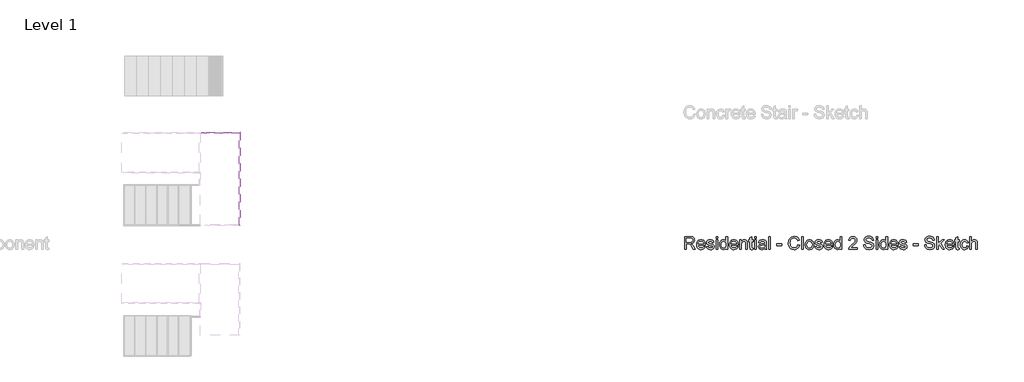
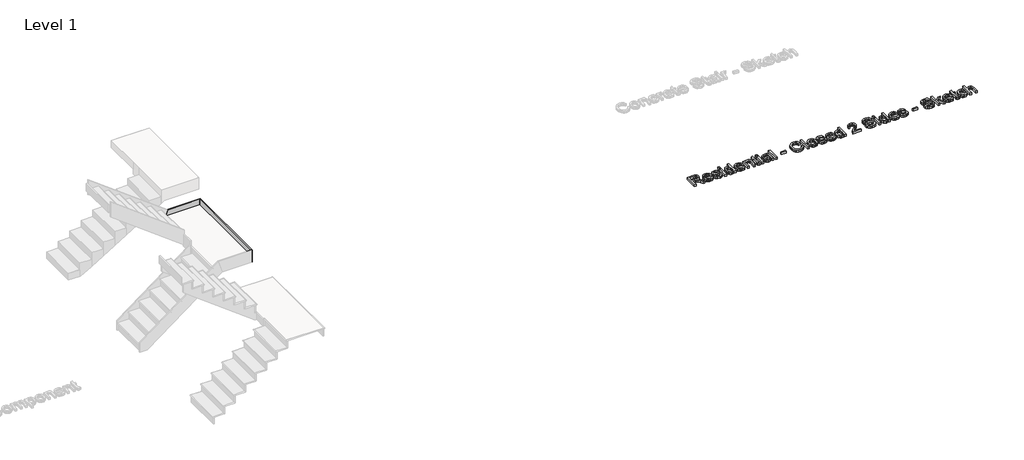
# One storey, part 23 of 26: 2 members, 1 proxy.
"""IFC4 building model written with IfcOpenShell, lengths in millimetres."""

from ifc_helpers import new_model, si_unit, frame, origin, origin_with_axes, place, context, project, spatial, polyline, outline, extrude, faceted_brep, element, save

model = new_model("IFC4")

# Units and contexts
model_context = context("Model", 3, world=origin())
ifc_project = project(units=[si_unit("LENGTHUNIT", "METRE", prefix="MILLI")], contexts=[model_context])

# Site, building, storey
site = spatial("IfcSite", under=ifc_project)
building = spatial("IfcBuilding", under=site)
storey = spatial("IfcBuildingStorey", under=building, Name="Level 1", Elevation=0.0)

# Proxy
placement = place(None, origin())
element("IfcBuildingElementProxy", 1, Name="12\" Arial", ObjectType="12\" Arial", at=placement, inside=storey, context=model_context, shape_type="SweptSolid", body=[
    extrude(outline(polyline([(-4715.4981187, 6428.8767877), (-4715.4981187, 6728.987557), (-4586.1779264, 6728.987557), (-4551.420835, 6726.9634945), (-4526.1337918, 6720.891307), (-4507.6516283, 6709.6811146), (-4493.3091764, 6692.2430377), (-4484.1047293, 6670.619456), (-4481.0365802, 6646.8527493), (-4486.1196331, 6617.2886146), (-4501.3687918, 6592.780057), (-4512.9201439, 6582.7925449), (-4527.2419889, 6574.8107781), (-4564.1971571, 6564.86448), (-4542.875811, 6548.8185185), (-4512.4690802, 6510.2056339), (-4462.4261956, 6428.8767877), (-4506.0213879, 6428.8767877), (-4545.0738879, 6491.0823646), (-4573.2825418, 6532.2596723), (-4593.1018687, 6551.7126531), (-4610.9429264, 6558.8564031), (-4632.7038879, 6560.1752493), (-4677.9842725, 6560.1752493), (-4677.9842725, 6428.8767877), (-4715.4981187, 6428.8767877)]), holes=[polyline([(-4677.9842725, 6597.6890954), (-4594.0177341, 6597.6890954), (-4569.9029985, 6599.0171002), (-4551.1918687, 6603.0011146), (-4537.1058591, 6609.9067396), (-4526.8664841, 6619.9995762), (-4520.6294408, 6632.2080618), (-4518.5504264, 6645.4606339), (-4522.5161235, 6663.7596243), (-4534.4132148, 6678.505057), (-4554.8828062, 6688.2315473), (-4584.5660033, 6691.4737108), (-4677.9842725, 6691.4737108), (-4677.9842725, 6597.6890954)])]), origin_with_axes(), (0.0, 0.0, 1.0), 50.8),
    extrude(outline(polyline([(-4265.7715802, 6494.5260185), (-4228.9904264, 6489.8367877), (-4242.2429985, 6462.1227012), (-4263.3903302, 6441.4058262), (-4291.9561716, 6428.4921243), (-4327.4642725, 6424.187557), (-4350.7409913, 6426.044474), (-4371.4807629, 6431.6152252), (-4389.6835874, 6440.8998106), (-4405.3494648, 6453.89823), (-4417.9471932, 6470.2487168), (-4426.9455706, 6489.5895041), (-4432.344597, 6511.9205918), (-4434.1442725, 6537.24198), (-4432.3262797, 6563.4219921), (-4426.8723014, 6586.4972204), (-4417.7823374, 6606.4676651), (-4405.0563879, 6623.3333262), (-4389.4317244, 6636.7324368), (-4371.6456187, 6646.30323), (-4351.6980706, 6652.045706), (-4329.5890802, 6653.9598646), (-4308.1921752, 6652.0502853), (-4288.8422293, 6646.3215473), (-4271.5392425, 6636.7736507), (-4256.2832148, 6623.4065954), (-4243.8297353, 6606.577569), (-4234.9343927, 6586.6437589), (-4229.5971872, 6563.6051651), (-4227.8181187, 6537.4617877), (-4228.0379264, 6527.3506339), (-4396.6304264, 6527.3506339), (-4390.1369408, 6499.2702012), (-4375.0526379, 6478.6265954), (-4353.2825177, 6465.9327012), (-4326.7315802, 6461.7014031), (-4306.7657148, 6463.661355), (-4289.9504264, 6469.5412108), (-4276.2857148, 6479.7073166), (-4265.7715802, 6494.5260185)]), holes=[polyline([(-4396.6304264, 6564.86448), (-4265.3319648, 6564.86448), (-4270.4058591, 6584.683807), (-4280.3521571, 6598.8614031), (-4302.2230225, 6612.0498646), (-4329.7356187, 6616.4460185), (-4355.0226619, 6612.9382541), (-4375.9318687, 6602.4149608), (-4390.4666523, 6586.0118118), (-4396.6304264, 6564.86448)])]), origin_with_axes(), (0.0, 0.0, 1.0), 50.8),
    extrude(outline(polyline([(-4204.3719648, 6494.5260185), (-4166.8581187, 6499.2152493), (-4160.9416283, 6483.1692877), (-4149.493311, 6471.3729416), (-4132.4398975, 6464.1192877), (-4109.7081187, 6461.7014031), (-4087.2510994, 6463.9177973), (-4071.4615802, 6470.56698), (-4062.1197533, 6480.2018839), (-4059.005811, 6491.3754416), (-4062.1380706, 6500.9370762), (-4071.5348494, 6508.2273646), (-4110.1477341, 6518.9246723), (-4166.638311, 6537.2786146), (-4180.9349696, 6546.5013791), (-4191.2934071, 6558.7098646), (-4197.5854023, 6573.1255858), (-4199.6827341, 6588.970057), (-4197.9975418, 6603.5048406), (-4192.9419648, 6616.9222685), (-4184.973936, 6628.6911387), (-4174.5513879, 6638.2802493), (-4150.7022533, 6649.3805377), (-4118.4271571, 6653.9598646), (-4094.010186, 6652.1189752), (-4072.7804264, 6646.596307), (-4055.7086956, 6637.9322204), (-4043.765811, 6626.6670762), (-4035.8527341, 6611.9674368), (-4030.8704264, 6592.9998646), (-4068.3842725, 6588.3106339), (-4073.1192966, 6600.1161387), (-4082.4885994, 6609.0091916), (-4096.5837677, 6614.5868118), (-4115.4963879, 6616.4460185), (-4137.0375418, 6614.6692396), (-4151.398311, 6609.3389031), (-4159.4762437, 6601.6456339), (-4162.1688879, 6592.780057), (-4157.6994648, 6581.8629416), (-4143.7050418, 6573.5835185), (-4111.393311, 6565.5971723), (-4056.3314841, 6547.9392877), (-4041.7875418, 6539.4950089), (-4030.7605225, 6527.9367877), (-4023.8091043, 6513.2279896), (-4021.4919648, 6495.33198), (-4024.212085, 6476.8314993), (-4032.3724456, 6459.430057), (-4045.6616523, 6444.4922925), (-4063.768311, 6433.3828454), (-4085.6391764, 6426.4863791), (-4110.2210033, 6424.187557), (-4148.0462437, 6428.6203454), (-4175.6504264, 6441.9187108), (-4194.0776379, 6463.9361146), (-4204.3719648, 6494.5260185)])), origin_with_axes(), (0.0, 0.0, 1.0), 50.8),
    extrude(outline(polyline([(-3979.2888879, 6428.8767877), (-3979.2888879, 6649.2706339), (-3941.7750418, 6649.2706339), (-3941.7750418, 6428.8767877), (-3979.2888879, 6428.8767877)])), origin_with_axes(), (0.0, 0.0, 1.0), 50.8),
    extrude(outline(polyline([(-3979.2888879, 6691.4737108), (-3979.2888879, 6728.987557), (-3941.7750418, 6728.987557), (-3941.7750418, 6691.4737108), (-3979.2888879, 6691.4737108)])), origin_with_axes(), (0.0, 0.0, 1.0), 50.8),
    extrude(outline(polyline([(-3749.5165802, 6428.8767877), (-3749.5165802, 6464.2658262), (-3760.7405105, 6446.7315834), (-3774.3365321, 6434.2071243), (-3790.3046451, 6426.6924488), (-3808.6448494, 6424.187557), (-3832.8969648, 6427.8143839), (-3855.0975418, 6438.6948646), (-3873.8910994, 6456.068831), (-3887.9221571, 6479.1761146), (-3896.6595129, 6507.0825329), (-3899.5719648, 6538.8539031), (-3896.8884793, 6570.2314512), (-3888.8380225, 6598.5683262), (-3875.4297533, 6622.252605), (-3856.6728302, 6639.6723646), (-3833.9868446, 6650.3879896), (-3808.7913879, 6653.9598646), (-3790.4374456, 6651.4046002), (-3774.208311, 6643.738807), (-3760.4520129, 6631.9882541), (-3749.5165802, 6617.1787108), (-3749.5165802, 6728.987557), (-3712.0027341, 6728.987557), (-3712.0027341, 6428.8767877), (-3749.5165802, 6428.8767877)]), holes=[polyline([(-3862.0581187, 6539.0004416), (-3857.8268206, 6505.0676291), (-3845.1329264, 6480.9345762), (-3826.6873975, 6466.5096964), (-3805.2011956, 6461.7014031), (-3783.7241523, 6466.2898887), (-3765.7457148, 6480.0553454), (-3753.5738639, 6503.2542156), (-3749.5165802, 6536.1429416), (-3753.6471331, 6572.0998166), (-3766.0387918, 6597.0296723), (-3784.4751619, 6611.591932), (-3806.7398494, 6616.4460185), (-3828.4458591, 6611.7842637), (-3846.2319648, 6597.7989993), (-3858.1015802, 6573.7758502), (-3862.0581187, 6539.0004416)])]), origin_with_axes(), (0.0, 0.0, 1.0), 50.8),
    extrude(outline(polyline([(-3501.4269648, 6494.5260185), (-3464.645811, 6489.8367877), (-3477.8983831, 6462.1227012), (-3499.0457148, 6441.4058262), (-3527.6115562, 6428.4921243), (-3563.1196571, 6424.187557), (-3586.3963759, 6426.044474), (-3607.1361475, 6431.6152252), (-3625.338972, 6440.8998106), (-3641.0048494, 6453.89823), (-3653.6025778, 6470.2487168), (-3662.6009552, 6489.5895041), (-3667.9999817, 6511.9205918), (-3669.7996571, 6537.24198), (-3667.9816643, 6563.4219921), (-3662.527686, 6586.4972204), (-3653.437722, 6606.4676651), (-3640.7117725, 6623.3333262), (-3625.0871091, 6636.7324368), (-3607.3010033, 6646.30323), (-3587.3534552, 6652.045706), (-3565.2444648, 6653.9598646), (-3543.8475598, 6652.0502853), (-3524.4976139, 6646.3215473), (-3507.1946271, 6636.7736507), (-3491.9385994, 6623.4065954), (-3479.4851199, 6606.577569), (-3470.5897773, 6586.6437589), (-3465.2525718, 6563.6051651), (-3463.4735033, 6537.4617877), (-3463.693311, 6527.3506339), (-3632.285811, 6527.3506339), (-3625.7923254, 6499.2702012), (-3610.7080225, 6478.6265954), (-3588.9379023, 6465.9327012), (-3562.3869648, 6461.7014031), (-3542.4210994, 6463.661355), (-3525.605811, 6469.5412108), (-3511.9410994, 6479.7073166), (-3501.4269648, 6494.5260185)]), holes=[polyline([(-3632.285811, 6564.86448), (-3500.9873494, 6564.86448), (-3506.0612437, 6584.683807), (-3516.0075418, 6598.8614031), (-3537.8784071, 6612.0498646), (-3565.3910033, 6616.4460185), (-3590.6780466, 6612.9382541), (-3611.5872533, 6602.4149608), (-3626.1220369, 6586.0118118), (-3632.285811, 6564.86448)])]), origin_with_axes(), (0.0, 0.0, 1.0), 50.8),
    extrude(outline(polyline([(-3425.9596571, 6428.8767877), (-3425.9596571, 6649.2706339), (-3388.445811, 6649.2706339), (-3388.445811, 6618.497557), (-3375.4130466, 6634.0123166), (-3359.7609071, 6645.0942877), (-3341.4893927, 6651.7434704), (-3320.5985033, 6653.9598646), (-3302.1071812, 6652.1739271), (-3285.1728302, 6646.8161146), (-3271.050186, 6638.5550089), (-3260.9939841, 6628.0591916), (-3249.7471571, 6600.4733262), (-3247.7688879, 6564.205057), (-3247.7688879, 6428.8767877), (-3285.2827341, 6428.8767877), (-3285.2827341, 6559.14948), (-3289.6056187, 6592.3404416), (-3295.5862196, 6602.2226291), (-3304.8822533, 6609.8884223), (-3316.7976619, 6614.8066195), (-3330.6363879, 6616.4460185), (-3352.6079985, 6612.7642396), (-3371.3374456, 6601.7189031), (-3378.8223555, 6592.7022084), (-3384.1687196, 6580.3792396), (-3388.445811, 6545.81448), (-3388.445811, 6428.8767877), (-3425.9596571, 6428.8767877)])), origin_with_axes(), (0.0, 0.0, 1.0), 50.8),
    extrude(outline(polyline([(-3116.4704264, 6460.1627493), (-3111.7811956, 6427.7777493), (-3139.843311, 6424.187557), (-3157.8492244, 6425.7445281), (-3171.275811, 6430.4154416), (-3180.7641764, 6437.6141435), (-3186.9554264, 6446.75448), (-3190.3624456, 6462.4524127), (-3191.4981187, 6489.3239031), (-3191.4981187, 6611.7567877), (-3219.6335033, 6611.7567877), (-3219.6335033, 6649.2706339), (-3191.4981187, 6649.2706339), (-3191.4981187, 6702.8304416), (-3153.9842725, 6724.88448), (-3153.9842725, 6649.2706339), (-3116.4704264, 6649.2706339), (-3116.4704264, 6611.7567877), (-3153.9842725, 6611.7567877), (-3153.9842725, 6490.4229416), (-3152.0060033, 6471.0798646), (-3145.5949456, 6464.2291916), (-3132.8094648, 6461.7014031), (-3116.4704264, 6460.1627493)])), origin_with_axes(), (0.0, 0.0, 1.0), 50.8),
    extrude(outline(polyline([(-3078.9565802, 6428.8767877), (-3078.9565802, 6649.2706339), (-3041.4427341, 6649.2706339), (-3041.4427341, 6428.8767877), (-3078.9565802, 6428.8767877)])), origin_with_axes(), (0.0, 0.0, 1.0), 50.8),
    extrude(outline(polyline([(-3078.9565802, 6691.4737108), (-3078.9565802, 6728.987557), (-3041.4427341, 6728.987557), (-3041.4427341, 6691.4737108), (-3078.9565802, 6691.4737108)])), origin_with_axes(), (0.0, 0.0, 1.0), 50.8),
    extrude(outline(polyline([(-2844.4950418, 6457.0121723), (-2862.4185273, 6441.6439512), (-2880.8732148, 6431.5877493), (-2900.2804023, 6426.037605), (-2921.0613879, 6424.187557), (-2952.41146, 6428.6386627), (-2975.537061, 6441.99198), (-2989.797085, 6462.2692396), (-2994.5504264, 6487.4921723), (-2992.7553302, 6503.0435666), (-2987.3700418, 6517.1662108), (-2979.0631427, 6529.2556339), (-2968.5032148, 6538.7073646), (-2942.2361956, 6551.0165954), (-2909.7779264, 6556.6583262), (-2871.4214841, 6562.5931339), (-2844.7148494, 6569.5537108), (-2844.4950418, 6577.9064031), (-2847.0777821, 6594.6484223), (-2854.8260033, 6605.6021723), (-2872.1541764, 6613.735057), (-2896.2963879, 6616.4460185), (-2918.6435033, 6614.6417637), (-2934.2498494, 6609.2289993), (-2944.8922052, 6599.2185906), (-2952.3473494, 6583.6214031), (-2989.8611956, 6588.3106339), (-2983.3493927, 6608.8260185), (-2973.632061, 6624.9452493), (-2959.8024937, 6637.2727973), (-2940.9539841, 6646.4131339), (-2917.9016523, 6652.073182), (-2891.4606187, 6653.9598646), (-2866.1003062, 6652.2929896), (-2845.997061, 6647.2923646), (-2830.8394889, 6639.7731098), (-2820.3161956, 6630.5503454), (-2813.3373014, 6619.1478214), (-2808.8129264, 6605.0892877), (-2806.9811956, 6572.2646723), (-2806.9811956, 6525.5921723), (-2805.0761956, 6460.4191916), (-2797.6027341, 6428.8767877), (-2835.1165802, 6428.8767877), (-2844.4950418, 6457.0121723)]), holes=[polyline([(-2844.4950418, 6532.0398646), (-2905.0154264, 6520.5365954), (-2937.2905225, 6514.4552493), (-2951.9077341, 6504.5639031), (-2957.0365802, 6490.1298646), (-2954.2431908, 6478.9746243), (-2945.8630225, 6469.8342877), (-2932.0792485, 6463.7346243), (-2913.0750418, 6461.7014031), (-2892.9260033, 6463.9452733), (-2875.1215802, 6470.6768839), (-2860.6875418, 6480.595706), (-2850.6496571, 6492.4012108), (-2846.1985514, 6504.5639031), (-2844.7148494, 6521.4158262), (-2844.4950418, 6532.0398646)])]), origin_with_axes(), (0.0, 0.0, 1.0), 50.8),
    extrude(outline(polyline([(-2755.3996571, 6428.8767877), (-2755.3996571, 6728.987557), (-2717.885811, 6728.987557), (-2717.885811, 6428.8767877), (-2755.3996571, 6428.8767877)])), origin_with_axes(), (0.0, 0.0, 1.0), 50.8),
    extrude(outline(polyline([(-2563.1411956, 6517.9721723), (-2563.1411956, 6555.4860185), (-2445.9104264, 6555.4860185), (-2445.9104264, 6517.9721723), (-2563.1411956, 6517.9721723)])), origin_with_axes(), (0.0, 0.0, 1.0), 50.8),
    extrude(outline(polyline([(-2070.7719648, 6535.5567877), (-2033.2581187, 6525.8852493), (-2040.6812076, 6502.5558683), (-2050.5679744, 6482.1709945), (-2062.9184192, 6464.7306279), (-2077.7325418, 6450.2347685), (-2094.6760514, 6438.8391134), (-2113.4146571, 6430.6993598), (-2133.9483591, 6425.8155077), (-2156.2771571, 6424.187557), (-2199.7899216, 6429.1149127), (-2234.3455225, 6443.89698), (-2260.8323494, 6468.0208743), (-2280.1387918, 6500.9737108), (-2291.9259793, 6539.7148166), (-2295.8550418, 6581.2035185), (-2291.4130946, 6624.9635666), (-2278.0872533, 6662.7521723), (-2256.5735754, 6693.3695521), (-2227.5681187, 6715.6159223), (-2193.1682148, 6729.1615714), (-2155.4711956, 6733.6767877), (-2114.3396812, 6727.8335666), (-2096.4459612, 6720.5295401), (-2080.3335994, 6710.3039031), (-2066.2681968, 6697.4268358), (-2054.5153543, 6682.1685185), (-2037.9473494, 6644.5081339), (-2075.4611956, 6635.5692877), (-2088.4664841, 6662.9261868), (-2106.2342725, 6681.6922685), (-2128.9843687, 6692.5452733), (-2156.9365802, 6696.1629416), (-2189.1567244, 6692.1514512), (-2215.6252341, 6680.11698), (-2235.7101619, 6661.3234223), (-2248.779561, 6637.0346723), (-2255.9507869, 6609.5770281), (-2258.3411956, 6581.2767877), (-2255.5111716, 6546.6204416), (-2247.0210994, 6516.6533262), (-2232.5504264, 6492.5202733), (-2211.7785994, 6475.3661146), (-2186.8762196, 6465.117581), (-2160.0138879, 6461.7014031), (-2128.7004504, 6466.3539993), (-2102.6074456, 6480.3117877), (-2082.9071812, 6503.42823), (-2070.7719648, 6535.5567877)])), origin_with_axes(), (0.0, 0.0, 1.0), 50.8),
    extrude(outline(polyline([(-1986.365811, 6428.8767877), (-1986.365811, 6728.987557), (-1948.8519648, 6728.987557), (-1948.8519648, 6428.8767877), (-1986.365811, 6428.8767877)])), origin_with_axes(), (0.0, 0.0, 1.0), 50.8),
    extrude(outline(polyline([(-1901.9596571, 6539.0737108), (-1899.9310153, 6567.6166555), (-1893.8450898, 6592.2122204), (-1883.7018807, 6612.8604055), (-1869.5013879, 6629.5612108), (-1855.2047293, 6640.2356219), (-1839.4243687, 6647.8602012), (-1822.1603062, 6652.4349488), (-1803.4125418, 6653.9598646), (-1782.7162737, 6652.1029476), (-1764.0028543, 6646.5321964), (-1747.2722833, 6637.247611), (-1732.524561, 6624.2491916), (-1720.4878002, 6607.9765534), (-1711.8901139, 6588.8693118), (-1706.7315021, 6566.9274668), (-1705.0119648, 6542.1510185), (-1708.0526379, 6504.2525089), (-1717.1746571, 6475.4027493), (-1732.1124216, 6453.7974848), (-1752.6003302, 6437.6324608), (-1776.9348735, 6427.5487829), (-1803.4125418, 6424.187557), (-1824.4110454, 6426.037605), (-1843.2984793, 6431.5877493), (-1860.0748434, 6440.8379896), (-1874.7401379, 6453.7883262), (-1886.6486776, 6470.2189512), (-1895.1547773, 6489.910057), (-1900.2584372, 6512.8616435), (-1901.9596571, 6539.0737108)]), holes=[polyline([(-1864.445811, 6539.14698), (-1860.1046091, 6505.1958502), (-1847.0810033, 6481.0078454), (-1827.4814841, 6466.5280137), (-1803.4125418, 6461.7014031), (-1779.4535033, 6466.5554896), (-1759.8906187, 6481.1177493), (-1746.8670129, 6505.626307), (-1742.525811, 6540.3192877), (-1746.8944889, 6573.2812829), (-1760.0005225, 6597.1395762), (-1779.5908831, 6611.6194079), (-1803.4125418, 6616.4460185), (-1827.4814841, 6611.6377252), (-1847.0810033, 6597.2128454), (-1860.1046091, 6573.0797925), (-1864.445811, 6539.14698)])]), origin_with_axes(), (0.0, 0.0, 1.0), 50.8),
    extrude(outline(polyline([(-1676.8765802, 6494.5260185), (-1639.3627341, 6499.2152493), (-1633.4462437, 6483.1692877), (-1621.9979264, 6471.3729416), (-1604.9445129, 6464.1192877), (-1582.2127341, 6461.7014031), (-1559.7557148, 6463.9177973), (-1543.9661956, 6470.56698), (-1534.6243687, 6480.2018839), (-1531.5104264, 6491.3754416), (-1534.642686, 6500.9370762), (-1544.0394648, 6508.2273646), (-1582.6523494, 6518.9246723), (-1639.1429264, 6537.2786146), (-1653.439585, 6546.5013791), (-1663.7980225, 6558.7098646), (-1670.0900177, 6573.1255858), (-1672.1873494, 6588.970057), (-1670.5021571, 6603.5048406), (-1665.4465802, 6616.9222685), (-1657.4785514, 6628.6911387), (-1647.0560033, 6638.2802493), (-1623.2068687, 6649.3805377), (-1590.9317725, 6653.9598646), (-1566.5148014, 6652.1189752), (-1545.2850418, 6646.596307), (-1528.213311, 6637.9322204), (-1516.2704264, 6626.6670762), (-1508.3573494, 6611.9674368), (-1503.3750418, 6592.9998646), (-1540.8888879, 6588.3106339), (-1545.6239119, 6600.1161387), (-1554.9932148, 6609.0091916), (-1569.0883831, 6614.5868118), (-1588.0010033, 6616.4460185), (-1609.5421571, 6614.6692396), (-1623.9029264, 6609.3389031), (-1631.9808591, 6601.6456339), (-1634.6735033, 6592.780057), (-1630.2040802, 6581.8629416), (-1616.2096571, 6573.5835185), (-1583.8979264, 6565.5971723), (-1528.8360994, 6547.9392877), (-1514.2921571, 6539.4950089), (-1503.2651379, 6527.9367877), (-1496.3137196, 6513.2279896), (-1493.9965802, 6495.33198), (-1496.7167004, 6476.8314993), (-1504.877061, 6459.430057), (-1518.1662677, 6444.4922925), (-1536.2729264, 6433.3828454), (-1558.1437918, 6426.4863791), (-1582.7256187, 6424.187557), (-1620.5508591, 6428.6203454), (-1648.1550418, 6441.9187108), (-1666.5822533, 6463.9361146), (-1676.8765802, 6494.5260185)])), origin_with_axes(), (0.0, 0.0, 1.0), 50.8),
    extrude(outline(polyline([(-1297.4885033, 6494.5260185), (-1260.7073494, 6489.8367877), (-1273.9599216, 6462.1227012), (-1295.1072533, 6441.4058262), (-1323.6730946, 6428.4921243), (-1359.1811956, 6424.187557), (-1382.4579143, 6426.044474), (-1403.197686, 6431.6152252), (-1421.4005105, 6440.8998106), (-1437.0663879, 6453.89823), (-1449.6641163, 6470.2487168), (-1458.6624937, 6489.5895041), (-1464.0615201, 6511.9205918), (-1465.8611956, 6537.24198), (-1464.0432028, 6563.4219921), (-1458.5892244, 6586.4972204), (-1449.4992605, 6606.4676651), (-1436.773311, 6623.3333262), (-1421.1486475, 6636.7324368), (-1403.3625418, 6646.30323), (-1383.4149937, 6652.045706), (-1361.3060033, 6653.9598646), (-1339.9090982, 6652.0502853), (-1320.5591523, 6646.3215473), (-1303.2561655, 6636.7736507), (-1288.0001379, 6623.4065954), (-1275.5466583, 6606.577569), (-1266.6513158, 6586.6437589), (-1261.3141103, 6563.6051651), (-1259.5350418, 6537.4617877), (-1259.7548494, 6527.3506339), (-1428.3473494, 6527.3506339), (-1421.8538639, 6499.2702012), (-1406.769561, 6478.6265954), (-1384.9994408, 6465.9327012), (-1358.4485033, 6461.7014031), (-1338.4826379, 6463.661355), (-1321.6673494, 6469.5412108), (-1308.0026379, 6479.7073166), (-1297.4885033, 6494.5260185)]), holes=[polyline([(-1428.3473494, 6564.86448), (-1297.0488879, 6564.86448), (-1302.1227821, 6584.683807), (-1312.0690802, 6598.8614031), (-1333.9399456, 6612.0498646), (-1361.4525418, 6616.4460185), (-1386.739585, 6612.9382541), (-1407.6487918, 6602.4149608), (-1422.1835754, 6586.0118118), (-1428.3473494, 6564.86448)])]), origin_with_axes(), (0.0, 0.0, 1.0), 50.8),
    extrude(outline(polyline([(-1086.0335033, 6428.8767877), (-1086.0335033, 6464.2658262), (-1097.2574336, 6446.7315834), (-1110.8534552, 6434.2071243), (-1126.8215682, 6426.6924488), (-1145.1617725, 6424.187557), (-1169.4138879, 6427.8143839), (-1191.6144648, 6438.6948646), (-1210.4080225, 6456.068831), (-1224.4390802, 6479.1761146), (-1233.176436, 6507.0825329), (-1236.0888879, 6538.8539031), (-1233.4054023, 6570.2314512), (-1225.3549456, 6598.5683262), (-1211.9466764, 6622.252605), (-1193.1897533, 6639.6723646), (-1170.5037677, 6650.3879896), (-1145.308311, 6653.9598646), (-1126.9543687, 6651.4046002), (-1110.7252341, 6643.738807), (-1096.968936, 6631.9882541), (-1086.0335033, 6617.1787108), (-1086.0335033, 6728.987557), (-1048.5196571, 6728.987557), (-1048.5196571, 6428.8767877), (-1086.0335033, 6428.8767877)]), holes=[polyline([(-1198.5750418, 6539.0004416), (-1194.3437437, 6505.0676291), (-1181.6498494, 6480.9345762), (-1163.2043206, 6466.5096964), (-1141.7181187, 6461.7014031), (-1120.2410754, 6466.2898887), (-1102.2626379, 6480.0553454), (-1090.0907869, 6503.2542156), (-1086.0335033, 6536.1429416), (-1090.1640562, 6572.0998166), (-1102.5557148, 6597.0296723), (-1120.992085, 6611.591932), (-1143.2567725, 6616.4460185), (-1164.9627821, 6611.7842637), (-1182.7488879, 6597.7989993), (-1194.6185033, 6573.7758502), (-1198.5750418, 6539.0004416)])]), origin_with_axes(), (0.0, 0.0, 1.0), 50.8),
    extrude(outline(polyline([(-692.1381187, 6466.3906339), (-692.1381187, 6428.8767877), (-889.085811, 6428.8767877), (-885.0560033, 6454.7408262), (-875.8057629, 6474.9539752), (-862.2692725, 6494.5626531), (-842.6880706, 6515.0871964), (-815.3036956, 6538.0479416), (-774.8224456, 6574.0048166), (-750.5336956, 6600.5465954), (-738.3893206, 6622.0877493), (-734.3411956, 6643.0427493), (-738.1603543, 6661.8271483), (-749.6178302, 6677.4426531), (-767.2299216, 6687.9659464), (-789.5129264, 6691.4737108), (-812.9132869, 6688.0483743), (-831.0932148, 6677.7723646), (-842.8254504, 6661.4516435), (-846.8827341, 6639.8921723), (-884.3965802, 6644.5814031), (-875.3020369, 6680.8679896), (-866.7913579, 6695.3432421), (-855.6384071, 6707.3731339), (-842.0996271, 6716.829444), (-826.43146, 6723.5839512), (-788.7069648, 6728.987557), (-768.60143, 6727.4855377), (-750.70771, 6722.97948), (-735.025805, 6715.4693839), (-721.5557148, 6704.9552493), (-710.737055, 6692.2155618), (-703.0094408, 6678.028807), (-698.3728723, 6662.3949848), (-696.8273494, 6645.3140954), (-698.4942244, 6627.3722925), (-703.4948494, 6609.7418839), (-712.369585, 6591.8092396), (-725.6587918, 6572.96073), (-746.8427581, 6550.4579175), (-779.4017725, 6521.5623646), (-822.5573494, 6485.4772685), (-839.4825418, 6466.3906339), (-692.1381187, 6466.3906339)])), origin_with_axes(), (0.0, 0.0, 1.0), 50.8),
    extrude(outline(polyline([(-537.3935033, 6532.0398646), (-499.8796571, 6532.0398646), (-495.5750898, 6511.2222445), (-487.7902341, 6494.4893839), (-475.6458591, 6481.2093358), (-458.2627341, 6470.7501531), (-437.0146571, 6463.9635906), (-413.2754264, 6461.7014031), (-392.3753783, 6463.4140714), (-374.0763879, 6468.5520762), (-359.2485273, 6476.6849608), (-348.7618687, 6487.3822685), (-342.5248254, 6499.6640233), (-340.445811, 6512.5502493), (-342.0027821, 6525.1067637), (-346.6736956, 6535.9597685), (-356.162061, 6545.2191675), (-372.1713879, 6552.9948646), (-426.7935994, 6567.3189993), (-462.6497293, 6576.798206), (-485.5921571, 6585.81948), (-504.2666523, 6598.440105), (-517.5009071, 6613.735057), (-525.3865081, 6631.3746243), (-528.0150418, 6651.0290954), (-524.7637196, 6673.000706), (-515.0097533, 6693.4886146), (-499.009585, 6710.8534223), (-477.0196571, 6723.45573), (-450.6244168, 6731.1215233), (-421.408311, 6733.6767877), (-389.7560033, 6731.0024608), (-362.0602341, 6722.97948), (-339.3101379, 6709.7727012), (-322.4948494, 6691.54698), (-311.8524937, 6669.4379896), (-307.6211956, 6644.5814031), (-345.1350418, 6644.5814031), (-352.0223494, 6666.9651531), (-366.3831187, 6683.1210185), (-388.8218206, 6692.9024608), (-419.9429264, 6696.1629416), (-451.7967244, 6692.9390954), (-473.6492725, 6683.267557), (-486.2882148, 6669.0350089), (-490.5011956, 6652.1281339), (-487.5154744, 6637.7124127), (-478.558311, 6626.117557), (-457.3835033, 6615.7499608), (-417.3052341, 6605.162557), (-375.9447533, 6595.106355), (-350.923311, 6586.3323646), (-329.5378543, 6572.722605), (-314.6184071, 6555.9256339), (-305.8535754, 6536.1246243), (-302.9319648, 6513.5027493), (-306.2931908, 6490.3771483), (-316.3768687, 6468.6253454), (-332.7708591, 6449.905057), (-355.0630225, 6435.8739993), (-381.8704023, 6427.1091675), (-411.8100418, 6424.187557), (-448.5637196, 6427.3381339), (-478.8147533, 6436.7898646), (-502.9111716, 6452.5793839), (-521.2010033, 6474.7433262), (-532.9423975, 6501.7430377), (-537.3935033, 6532.0398646)])), origin_with_axes(), (0.0, 0.0, 1.0), 50.8),
    extrude(outline(polyline([(-251.3504264, 6428.8767877), (-251.3504264, 6649.2706339), (-213.8365802, 6649.2706339), (-213.8365802, 6428.8767877), (-251.3504264, 6428.8767877)])), origin_with_axes(), (0.0, 0.0, 1.0), 50.8),
    extrude(outline(polyline([(-251.3504264, 6691.4737108), (-251.3504264, 6728.987557), (-213.8365802, 6728.987557), (-213.8365802, 6691.4737108), (-251.3504264, 6691.4737108)])), origin_with_axes(), (0.0, 0.0, 1.0), 50.8),
    extrude(outline(polyline([(-21.5781187, 6428.8767877), (-21.5781187, 6464.2658262), (-32.802049, 6446.7315834), (-46.3980706, 6434.2071243), (-62.3661836, 6426.6924488), (-80.7063879, 6424.187557), (-104.9585033, 6427.8143839), (-127.1590802, 6438.6948646), (-145.9526379, 6456.068831), (-159.9836956, 6479.1761146), (-168.7210514, 6507.0825329), (-171.6335033, 6538.8539031), (-168.9500177, 6570.2314512), (-160.899561, 6598.5683262), (-147.4912918, 6622.252605), (-128.7343687, 6639.6723646), (-106.0483831, 6650.3879896), (-80.8529264, 6653.9598646), (-62.4989841, 6651.4046002), (-46.2698494, 6643.738807), (-32.5135514, 6631.9882541), (-21.5781187, 6617.1787108), (-21.5781187, 6728.987557), (15.9357275, 6728.987557), (15.9357275, 6428.8767877), (-21.5781187, 6428.8767877)]), holes=[polyline([(-134.1196571, 6539.0004416), (-129.8883591, 6505.0676291), (-117.1944648, 6480.9345762), (-98.748936, 6466.5096964), (-77.2627341, 6461.7014031), (-55.7856908, 6466.2898887), (-37.8072533, 6480.0553454), (-25.6354023, 6503.2542156), (-21.5781187, 6536.1429416), (-25.7086716, 6572.0998166), (-38.1003302, 6597.0296723), (-56.5367004, 6611.591932), (-78.8013879, 6616.4460185), (-100.5073975, 6611.7842637), (-118.2935033, 6597.7989993), (-130.1631187, 6573.7758502), (-134.1196571, 6539.0004416)])]), origin_with_axes(), (0.0, 0.0, 1.0), 50.8),
    extrude(outline(polyline([(226.5114967, 6494.5260185), (263.2926506, 6489.8367877), (250.0400784, 6462.1227012), (228.8927467, 6441.4058262), (200.3269054, 6428.4921243), (164.8188044, 6424.187557), (141.5420857, 6426.044474), (120.802314, 6431.6152252), (102.5994895, 6440.8998106), (86.9336121, 6453.89823), (74.3358837, 6470.2487168), (65.3375063, 6489.5895041), (59.9384799, 6511.9205918), (58.1388044, 6537.24198), (59.9567972, 6563.4219921), (65.4107756, 6586.4972204), (74.5007395, 6606.4676651), (87.226689, 6623.3333262), (102.8513525, 6636.7324368), (120.6374582, 6646.30323), (140.5850063, 6652.045706), (162.6939967, 6653.9598646), (184.0909018, 6652.0502853), (203.4408477, 6646.3215473), (220.7438345, 6636.7736507), (235.9998621, 6623.4065954), (248.4533417, 6606.577569), (257.3486842, 6586.6437589), (262.6858897, 6563.6051651), (264.4649582, 6537.4617877), (264.2451506, 6527.3506339), (95.6526506, 6527.3506339), (102.1461361, 6499.2702012), (117.230439, 6478.6265954), (139.0005592, 6465.9327012), (165.5514967, 6461.7014031), (185.5173621, 6463.661355), (202.3326506, 6469.5412108), (215.9973621, 6479.7073166), (226.5114967, 6494.5260185)]), holes=[polyline([(95.6526506, 6564.86448), (226.9511121, 6564.86448), (221.8772179, 6584.683807), (211.9309198, 6598.8614031), (190.0600544, 6612.0498646), (162.5474582, 6616.4460185), (137.260415, 6612.9382541), (116.3512082, 6602.4149608), (101.8164246, 6586.0118118), (95.6526506, 6564.86448)])]), origin_with_axes(), (0.0, 0.0, 1.0), 50.8),
    extrude(outline(polyline([(287.9111121, 6494.5260185), (325.4249582, 6499.2152493), (331.3414486, 6483.1692877), (342.7897659, 6471.3729416), (359.8431794, 6464.1192877), (382.5749582, 6461.7014031), (405.0319775, 6463.9177973), (420.8214967, 6470.56698), (430.1633236, 6480.2018839), (433.2772659, 6491.3754416), (430.1450063, 6500.9370762), (420.7482275, 6508.2273646), (382.1353429, 6518.9246723), (325.6447659, 6537.2786146), (311.3481073, 6546.5013791), (300.9896698, 6558.7098646), (294.6976746, 6573.1255858), (292.6003429, 6588.970057), (294.2855352, 6603.5048406), (299.3411121, 6616.9222685), (307.3091409, 6628.6911387), (317.731689, 6638.2802493), (341.5808236, 6649.3805377), (373.8559198, 6653.9598646), (398.2728909, 6652.1189752), (419.5026506, 6646.596307), (436.5743813, 6637.9322204), (448.5172659, 6626.6670762), (456.4303429, 6611.9674368), (461.4126506, 6592.9998646), (423.8988044, 6588.3106339), (419.1637804, 6600.1161387), (409.7944775, 6609.0091916), (395.6993092, 6614.5868118), (376.786689, 6616.4460185), (355.2455352, 6614.6692396), (340.8847659, 6609.3389031), (332.8068332, 6601.6456339), (330.114189, 6592.780057), (334.5836121, 6581.8629416), (348.5780352, 6573.5835185), (380.8897659, 6565.5971723), (435.9515929, 6547.9392877), (450.4955352, 6539.4950089), (461.5225544, 6527.9367877), (468.4739727, 6513.2279896), (470.7911121, 6495.33198), (468.0709919, 6476.8314993), (459.9106313, 6459.430057), (446.6214246, 6444.4922925), (428.5147659, 6433.3828454), (406.6439006, 6426.4863791), (382.0620736, 6424.187557), (344.2368332, 6428.6203454), (316.6326506, 6441.9187108), (298.205439, 6463.9361146), (287.9111121, 6494.5260185)])), origin_with_axes(), (0.0, 0.0, 1.0), 50.8),
    extrude(outline(polyline([(611.4680352, 6517.9721723), (611.4680352, 6555.4860185), (728.6988044, 6555.4860185), (728.6988044, 6517.9721723), (611.4680352, 6517.9721723)])), origin_with_axes(), (0.0, 0.0, 1.0), 50.8),
    extrude(outline(polyline([(878.754189, 6532.0398646), (916.2680352, 6532.0398646), (920.5726025, 6511.2222445), (928.3574582, 6494.4893839), (940.5018332, 6481.2093358), (957.8849582, 6470.7501531), (979.1330352, 6463.9635906), (1002.8722659, 6461.7014031), (1023.772314, 6463.4140714), (1042.0713044, 6468.5520762), (1056.899165, 6476.6849608), (1067.3858236, 6487.3822685), (1073.6228669, 6499.6640233), (1075.7018813, 6512.5502493), (1074.1449102, 6525.1067637), (1069.4739967, 6535.9597685), (1059.9856313, 6545.2191675), (1043.9763044, 6552.9948646), (989.3540929, 6567.3189993), (953.4979631, 6576.798206), (930.5555352, 6585.81948), (911.88104, 6598.440105), (898.6467852, 6613.735057), (890.7611842, 6631.3746243), (888.1326506, 6651.0290954), (891.3839727, 6673.000706), (901.137939, 6693.4886146), (917.1381073, 6710.8534223), (939.1280352, 6723.45573), (965.5232756, 6731.1215233), (994.7393813, 6733.6767877), (1026.391689, 6731.0024608), (1054.0874582, 6722.97948), (1076.8375544, 6709.7727012), (1093.6528429, 6691.54698), (1104.2951986, 6669.4379896), (1108.5264967, 6644.5814031), (1071.0126506, 6644.5814031), (1064.1253429, 6666.9651531), (1049.7645736, 6683.1210185), (1027.3258717, 6692.9024608), (996.2047659, 6696.1629416), (964.3509679, 6692.9390954), (942.4984198, 6683.267557), (929.8594775, 6669.0350089), (925.6464967, 6652.1281339), (928.6322179, 6637.7124127), (937.5893813, 6626.117557), (958.764189, 6615.7499608), (998.8424582, 6605.162557), (1040.202939, 6595.106355), (1065.2243813, 6586.3323646), (1086.6098381, 6572.722605), (1101.5292852, 6555.9256339), (1110.2941169, 6536.1246243), (1113.2157275, 6513.5027493), (1109.8545015, 6490.3771483), (1099.7708236, 6468.6253454), (1083.3768332, 6449.905057), (1061.0846698, 6435.8739993), (1034.27729, 6427.1091675), (1004.3376506, 6424.187557), (967.5839727, 6427.3381339), (937.332939, 6436.7898646), (913.2365207, 6452.5793839), (894.946689, 6474.7433262), (883.2052948, 6501.7430377), (878.754189, 6532.0398646)])), origin_with_axes(), (0.0, 0.0, 1.0), 50.8),
    extrude(outline(polyline([(1164.7972659, 6428.8767877), (1164.7972659, 6728.987557), (1202.3111121, 6728.987557), (1202.3111121, 6567.72198), (1286.424189, 6649.2706339), (1338.2988044, 6649.2706339), (1253.1599582, 6566.6962108), (1342.9880352, 6428.8767877), (1299.1730352, 6428.8767877), (1226.2701506, 6540.6123646), (1202.3111121, 6517.3860185), (1202.3111121, 6428.8767877), (1164.7972659, 6428.8767877)])), origin_with_axes(), (0.0, 0.0, 1.0), 50.8),
    extrude(outline(polyline([(1530.1176506, 6494.5260185), (1566.8988044, 6489.8367877), (1553.6462323, 6462.1227012), (1532.4989006, 6441.4058262), (1503.9330592, 6428.4921243), (1468.4249582, 6424.187557), (1445.1482395, 6426.044474), (1424.4084679, 6431.6152252), (1406.2056433, 6440.8998106), (1390.5397659, 6453.89823), (1377.9420376, 6470.2487168), (1368.9436602, 6489.5895041), (1363.5446337, 6511.9205918), (1361.7449582, 6537.24198), (1363.562951, 6563.4219921), (1369.0169294, 6586.4972204), (1378.1068933, 6606.4676651), (1390.8328429, 6623.3333262), (1406.4575063, 6636.7324368), (1424.2436121, 6646.30323), (1444.1911602, 6652.045706), (1466.3001506, 6653.9598646), (1487.6970556, 6652.0502853), (1507.0470015, 6646.3215473), (1524.3499883, 6636.7736507), (1539.6060159, 6623.4065954), (1552.0594955, 6606.577569), (1560.9548381, 6586.6437589), (1566.2920436, 6563.6051651), (1568.0711121, 6537.4617877), (1567.8513044, 6527.3506339), (1399.2588044, 6527.3506339), (1405.75229, 6499.2702012), (1420.8365929, 6478.6265954), (1442.6067131, 6465.9327012), (1469.1576506, 6461.7014031), (1489.1235159, 6463.661355), (1505.9388044, 6469.5412108), (1519.6035159, 6479.7073166), (1530.1176506, 6494.5260185)]), holes=[polyline([(1399.2588044, 6564.86448), (1530.5572659, 6564.86448), (1525.4833717, 6584.683807), (1515.5370736, 6598.8614031), (1493.6662082, 6612.0498646), (1466.1536121, 6616.4460185), (1440.8665688, 6612.9382541), (1419.9573621, 6602.4149608), (1405.4225784, 6586.0118118), (1399.2588044, 6564.86448)])]), origin_with_axes(), (0.0, 0.0, 1.0), 50.8),
    extrude(outline(polyline([(1685.3018813, 6460.1627493), (1689.9911121, 6427.7777493), (1661.9289967, 6424.187557), (1643.9230832, 6425.7445281), (1630.4964967, 6430.4154416), (1621.0081313, 6437.6141435), (1614.8168813, 6446.75448), (1611.4098621, 6462.4524127), (1610.274189, 6489.3239031), (1610.274189, 6611.7567877), (1582.1388044, 6611.7567877), (1582.1388044, 6649.2706339), (1610.274189, 6649.2706339), (1610.274189, 6702.8304416), (1647.7880352, 6724.88448), (1647.7880352, 6649.2706339), (1685.3018813, 6649.2706339), (1685.3018813, 6611.7567877), (1647.7880352, 6611.7567877), (1647.7880352, 6490.4229416), (1649.7663044, 6471.0798646), (1656.1773621, 6464.2291916), (1668.9628429, 6461.7014031), (1685.3018813, 6460.1627493)])), origin_with_axes(), (0.0, 0.0, 1.0), 50.8),
    extrude(outline(polyline([(1863.4926506, 6508.5937108), (1901.0064967, 6503.90448), (1890.547314, 6470.5395041), (1870.8928429, 6445.32573), (1843.8931313, 6429.4721002), (1811.3982275, 6424.187557), (1790.3585099, 6426.030736), (1771.4939727, 6431.5602733), (1754.8046157, 6440.7761687), (1740.290439, 6453.6784223), (1728.5421758, 6470.0243298), (1720.1505592, 6489.5711868), (1715.1155893, 6512.3189933), (1713.4372659, 6538.2677493), (1716.3039246, 6571.6510425), (1724.9039006, 6600.58323), (1739.3745736, 6623.946956), (1759.8533236, 6640.6248646), (1784.3527227, 6650.6261146), (1810.8853429, 6653.9598646), (1842.5834438, 6649.3805377), (1867.925439, 6635.642557), (1886.1053669, 6613.4786146), (1896.3172659, 6583.6214031), (1858.8034198, 6578.9321723), (1851.99854, 6595.2986868), (1841.4019775, 6607.0309223), (1827.5998861, 6614.0922445), (1811.1784198, 6616.4460185), (1786.9354631, 6611.8117396), (1767.6931313, 6597.9089031), (1755.1366169, 6573.9864993), (1750.9511121, 6539.2935185), (1755.0450304, 6504.1334464), (1767.3267852, 6480.1286146), (1786.2210881, 6466.308206), (1810.1526506, 6461.7014031), (1829.5781554, 6464.5772204), (1845.5050544, 6473.2046723), (1857.0907515, 6487.8035666), (1863.4926506, 6508.5937108)])), origin_with_axes(), (0.0, 0.0, 1.0), 50.8),
    extrude(outline(polyline([(1933.8311121, 6428.8767877), (1933.8311121, 6728.987557), (1971.3449582, 6728.987557), (1971.3449582, 6618.6440954), (1985.124153, 6634.0947445), (2000.5976986, 6645.1309223), (2017.7655953, 6651.7526291), (2036.6278429, 6653.9598646), (2059.2863525, 6651.5511387), (2078.7576506, 6644.3249608), (2094.0892371, 6632.8491675), (2104.3286121, 6617.6915954), (2110.098564, 6596.8648166), (2112.0218813, 6568.3814031), (2112.0218813, 6428.8767877), (2074.5080352, 6428.8767877), (2074.5080352, 6564.4981339), (2071.522314, 6587.9809223), (2062.5651506, 6604.0635185), (2048.1311121, 6613.3503935), (2028.7147659, 6616.4460185), (2012.8611361, 6614.3578454), (1997.9783236, 6608.0933262), (1985.6507756, 6598.256932), (1977.462939, 6585.4531339), (1972.8744534, 6568.436355), (1971.3449582, 6545.9610185), (1971.3449582, 6428.8767877), (1933.8311121, 6428.8767877)])), origin_with_axes(), (0.0, 0.0, 1.0), 50.8),
])

# Members
element("IfcMember", 2, ObjectType="Stringer - Unassigned - 3/4\" Width (1)", at=placement, inside=storey, context=model_context, shape_type="SweptSolid", body=[
    extrude(outline(polyline([(-15070.5981446, 6984.8628094), (-15089.6481446, 7003.9128094), (-15089.6481446, 9137.5128094), (-15070.5981446, 9156.5628094), (-15070.5981446, 6984.8628094)])), frame((0.0, 0.0, 1358.9), z_axis=(0.0, 0.0, 1.0), x_axis=(1.0, 0.0, 0.0)), (0.0, 0.0, 1.0), 304.8),
])
element("IfcMember", 3, ObjectType="Stringer - Unassigned - 3/4\" Width (1)", at=placement, inside=storey, context=model_context, shape_type="Brep", body=[
    faceted_brep([(-15089.6481446, 9137.5128094, 1663.7), (-15070.5981446, 9156.5628094, 1663.7), (-15866.4648113, 9156.5628094, 1663.7), (-15866.4648113, 9137.5128094, 1663.7), (-15089.6481446, 9137.5128094, 1358.9), (-15968.0648113, 9137.5128094, 1358.9), (-15070.5981446, 9156.5628094, 1358.9), (-15968.0648113, 9156.5628094, 1358.9)], [[[0, 1, 2, 3]], [[4, 0, 3, 5]], [[6, 4, 5, 7]], [[1, 6, 7, 2]], [[1, 0, 4, 6]], [[2, 7, 5, 3]]]),
])

save(model, "model.ifc")
